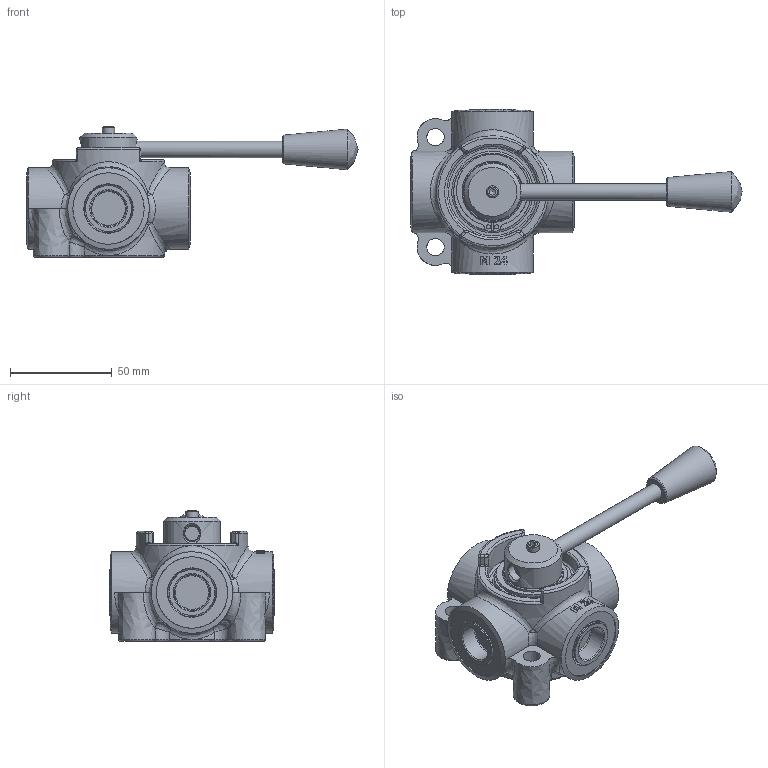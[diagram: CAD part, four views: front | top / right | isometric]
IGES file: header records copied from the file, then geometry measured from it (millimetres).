
Global section: file name: No Iges File Name specified; native system: Autodesk Inventor 2013; preprocessor: AutoDesk Inventor Iges Exporter R2013; author: christian.scardovi; date: 20240903.091622; units: millimetre
Bounding box: 163 x 81 x 64.25 mm (x, y, z)
Volume: 177158.7 mm3; surface area: 48622.9 mm2
Topology: 5 solids, 5 shells, 369 faces, 883 edges, 540 vertices
Faces by surface type: bspline 369
